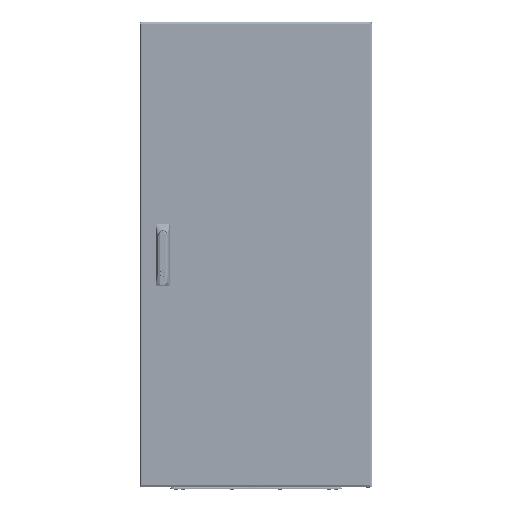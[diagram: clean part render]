
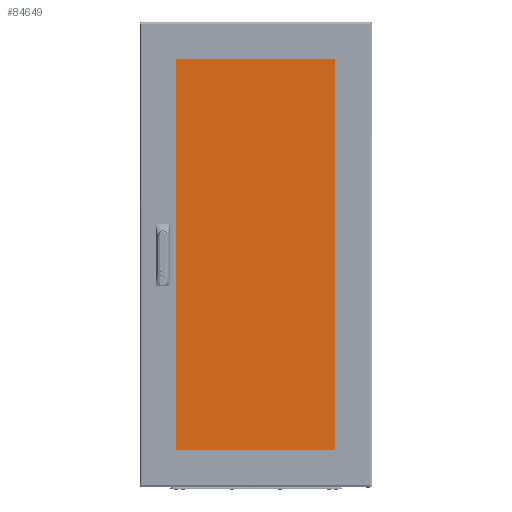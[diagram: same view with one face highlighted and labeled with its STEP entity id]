
A CAD part, top view. The second image highlights one B-rep face of the part: STEP entity #84649.
In plain terms, the highlighted planar face has unit normal (0, 0, 1).
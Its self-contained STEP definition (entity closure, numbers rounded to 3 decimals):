
#3565 = DIRECTION ( 'NONE',  ( 1., 0., 0. ) ) ;
#7520 = CARTESIAN_POINT ( 'NONE',  ( -214., 514., 2. ) ) ;
#17534 = CARTESIAN_POINT ( 'NONE',  ( -215., -515., 2. ) ) ;
#22684 = VECTOR ( 'NONE', #220538, 1000. ) ;
#25981 = DIRECTION ( 'NONE',  ( 0., 0., 1. ) ) ;
#26317 = DIRECTION ( 'NONE',  ( 0., 0., 1. ) ) ;
#27687 = EDGE_CURVE ( 'NONE', #79292, #187104, #29085, .T. ) ;
#27775 = CARTESIAN_POINT ( 'NONE',  ( 214., 514., 2. ) ) ;
#28118 = VERTEX_POINT ( 'NONE', #217565 ) ;
#29085 = LINE ( 'NONE', #106867, #230069 ) ;
#29568 = VERTEX_POINT ( 'NONE', #196839 ) ;
#29923 = EDGE_LOOP ( 'NONE', ( #188339, #118528, #127159, #83148, #97475, #127263, #118960, #137999 ) ) ;
#31736 = EDGE_CURVE ( 'NONE', #187104, #228509, #234388, .T. ) ;
#32847 = VERTEX_POINT ( 'NONE', #239794 ) ;
#36413 = LINE ( 'NONE', #128310, #91925 ) ;
#36529 = DIRECTION ( 'NONE',  ( 0., 0., 1. ) ) ;
#40576 = DIRECTION ( 'NONE',  ( 0., 0., 1. ) ) ;
#43614 = AXIS2_PLACEMENT_3D ( 'NONE', #143619, #26317, #144897 ) ;
#45107 = FACE_OUTER_BOUND ( 'NONE', #29923, .T. ) ;
#52338 = CARTESIAN_POINT ( 'NONE',  ( 215., 514., 2. ) ) ;
#63619 = CIRCLE ( 'NONE', #206157, 1. ) ;
#64583 = EDGE_CURVE ( 'NONE', #28118, #83286, #149584, .T. ) ;
#79292 = VERTEX_POINT ( 'NONE', #100696 ) ;
#79996 = DIRECTION ( 'NONE',  ( 0., -1., 0. ) ) ;
#83148 = ORIENTED_EDGE ( 'NONE', *, *, #235799, .T. ) ;
#83286 = VERTEX_POINT ( 'NONE', #229161 ) ;
#84649 = ADVANCED_FACE ( 'NONE', ( #45107 ), #124182, .T. ) ;
#91925 = VECTOR ( 'NONE', #208575, 1000. ) ;
#97475 = ORIENTED_EDGE ( 'NONE', *, *, #27687, .T. ) ;
#99120 = LINE ( 'NONE', #17534, #122863 ) ;
#100696 = CARTESIAN_POINT ( 'NONE',  ( 215., -514., 2. ) ) ;
#101266 = DIRECTION ( 'NONE',  ( 1., 0., 0. ) ) ;
#102217 = CARTESIAN_POINT ( 'NONE',  ( -215., 514., 2. ) ) ;
#106867 = CARTESIAN_POINT ( 'NONE',  ( 215., -515., 2. ) ) ;
#109025 = EDGE_CURVE ( 'NONE', #29568, #224175, #243165, .T. ) ;
#118528 = ORIENTED_EDGE ( 'NONE', *, *, #64583, .T. ) ;
#118960 = ORIENTED_EDGE ( 'NONE', *, *, #233180, .T. ) ;
#122863 = VECTOR ( 'NONE', #79996, 1000. ) ;
#124182 = PLANE ( 'NONE',  #199612 ) ;
#127159 = ORIENTED_EDGE ( 'NONE', *, *, #133348, .T. ) ;
#127263 = ORIENTED_EDGE ( 'NONE', *, *, #31736, .T. ) ;
#128310 = CARTESIAN_POINT ( 'NONE',  ( 215., -515., 2. ) ) ;
#133348 = EDGE_CURVE ( 'NONE', #83286, #32847, #36413, .T. ) ;
#137532 = CARTESIAN_POINT ( 'NONE',  ( 214., -514., 2. ) ) ;
#137999 = ORIENTED_EDGE ( 'NONE', *, *, #109025, .T. ) ;
#142763 = CARTESIAN_POINT ( 'NONE',  ( 215., 515., 2. ) ) ;
#143619 = CARTESIAN_POINT ( 'NONE',  ( -214., -514., 2. ) ) ;
#144897 = DIRECTION ( 'NONE',  ( 1., 0., 0. ) ) ;
#147740 = DIRECTION ( 'NONE',  ( 1., 0., 0. ) ) ;
#149584 = CIRCLE ( 'NONE', #43614, 1. ) ;
#161156 = CARTESIAN_POINT ( 'NONE',  ( 0., 0., 2. ) ) ;
#179713 = LINE ( 'NONE', #142763, #22684 ) ;
#184321 = EDGE_CURVE ( 'NONE', #224175, #28118, #99120, .T. ) ;
#184598 = DIRECTION ( 'NONE',  ( 0., 1., 0. ) ) ;
#187104 = VERTEX_POINT ( 'NONE', #52338 ) ;
#188339 = ORIENTED_EDGE ( 'NONE', *, *, #184321, .T. ) ;
#190308 = AXIS2_PLACEMENT_3D ( 'NONE', #7520, #240887, #147740 ) ;
#196839 = CARTESIAN_POINT ( 'NONE',  ( -214., 515., 2. ) ) ;
#199612 = AXIS2_PLACEMENT_3D ( 'NONE', #161156, #25981, #101266 ) ;
#206157 = AXIS2_PLACEMENT_3D ( 'NONE', #137532, #40576, #3565 ) ;
#206662 = CARTESIAN_POINT ( 'NONE',  ( 214., 515., 2. ) ) ;
#208575 = DIRECTION ( 'NONE',  ( 1., 0., 0. ) ) ;
#210012 = AXIS2_PLACEMENT_3D ( 'NONE', #27775, #36529, #231632 ) ;
#217565 = CARTESIAN_POINT ( 'NONE',  ( -215., -514., 2. ) ) ;
#220538 = DIRECTION ( 'NONE',  ( -1., 0., 0. ) ) ;
#224175 = VERTEX_POINT ( 'NONE', #102217 ) ;
#228509 = VERTEX_POINT ( 'NONE', #206662 ) ;
#229161 = CARTESIAN_POINT ( 'NONE',  ( -214., -515., 2. ) ) ;
#230069 = VECTOR ( 'NONE', #184598, 1000. ) ;
#231632 = DIRECTION ( 'NONE',  ( 1., 0., 0. ) ) ;
#233180 = EDGE_CURVE ( 'NONE', #228509, #29568, #179713, .T. ) ;
#234388 = CIRCLE ( 'NONE', #210012, 1. ) ;
#235799 = EDGE_CURVE ( 'NONE', #32847, #79292, #63619, .T. ) ;
#239794 = CARTESIAN_POINT ( 'NONE',  ( 214., -515., 2. ) ) ;
#240887 = DIRECTION ( 'NONE',  ( 0., 0., 1. ) ) ;
#243165 = CIRCLE ( 'NONE', #190308, 1. ) ;
